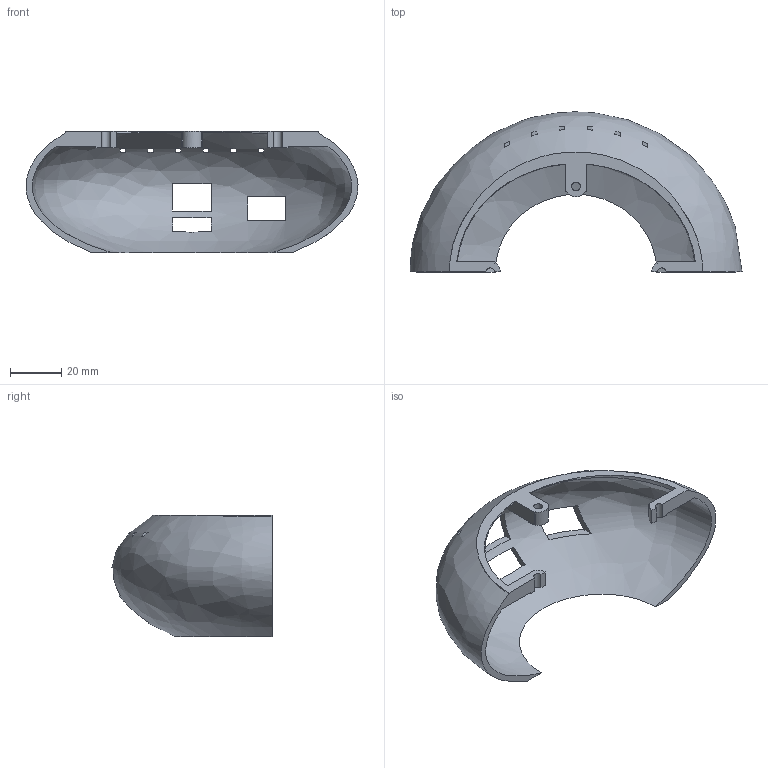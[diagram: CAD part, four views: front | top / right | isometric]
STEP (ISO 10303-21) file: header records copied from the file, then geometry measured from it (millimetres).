
FILE_DESCRIPTION(('FreeCAD Model'),'2;1');
FILE_NAME('Open CASCADE Shape Model','2026-11-20T08:25:34',('FreeCAD'),( 'FreeCAD'),'Open CASCADE STEP processor 7.8','FreeCAD','Unknown');
FILE_SCHEMA(('AUTOMOTIVE_DESIGN { 1 0 10303 214 1 1 1 1 }'));
Length unit declared in the file: millimetre
Products named in the file (1): Open CASCADE STEP translator 7.8 12
Bounding box: 128.96 x 62.16 x 47 mm (x, y, z)
Volume: 27520.9 mm3; surface area: 25029.2 mm2
Topology: 1 solids, 1 shells, 72 faces, 211 edges, 141 vertices
Faces by surface type: plane 60, cylinder 6, bspline 6
Full cylindrical faces by diameter (mm): 3.4 x1, 8 x1
Entity records: 7179 total; most frequent: CARTESIAN_POINT 5428, ORIENTED_EDGE 422, DIRECTION 258, EDGE_CURVE 211, VERTEX_POINT 141, B_SPLINE_CURVE_WITH_KNOTS 106, FACE_BOUND 92, EDGE_LOOP 92
